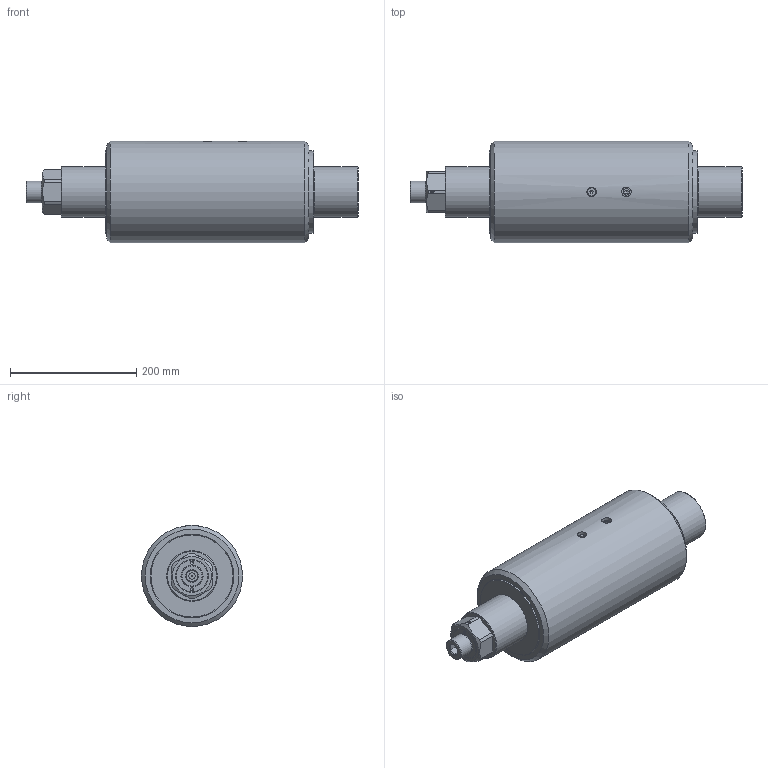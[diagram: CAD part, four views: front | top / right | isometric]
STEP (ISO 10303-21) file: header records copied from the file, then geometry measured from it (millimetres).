
FILE_DESCRIPTION( ( 'Unknown' ), '1' );
FILE_NAME( 'C:/Users/Wucherer/Desktop/MSPD 160 L1=330.stp', 'Unknown', ( 'Unknown' ), ( 'Unknown' ), 'PSStep 10.1', 'Unknown', ' ' );
FILE_SCHEMA( ( 'AUTOMOTIVE_DESIGN { 1 0 10303 214 1 1 1 1 }' ) );
Length unit declared in the file: millimetre
Products named in the file (1): 40909192
Bounding box: 525.39 x 160 x 160 mm (x, y, z)
Volume: 5378802.6 mm3; surface area: 443371.3 mm2
Topology: 1 solids, 4 shells, 208 faces, 457 edges, 287 vertices
Faces by surface type: plane 97, cylinder 54, cone 43, torus 12, sphere 2
Full cylindrical faces by diameter (mm): 2 x1, 4 x1, 5 x4, 8 x1, 8.566 x1, 8.85 x1, 10 x1, 10.2 x1, 12.1 x1, 12.5 x1, 14 x1, 15 x2, 21 x1, 26 x1, 30 x2, 30.5 x1, 34 x3, 39 x1, 40 x1, 50 x1, 50.5 x1, 56 x1, 58 x1, 80 x2, 90 x1, 100 x1, 120 x1, 122.5 x1, 126 x1, 130 x4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
Entity records: 7277 total; most frequent: CARTESIAN_POINT 1557, DIRECTION 872, ORIENTED_EDGE 644, AXIS2_PLACEMENT_3D 378, EDGE_LOOP 347, EDGE_CURVE 322, FACE_OUTER_BOUND 263, VERTEX_POINT 256
